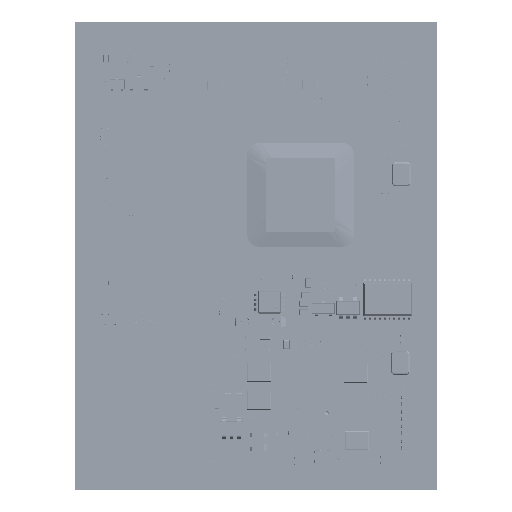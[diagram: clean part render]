
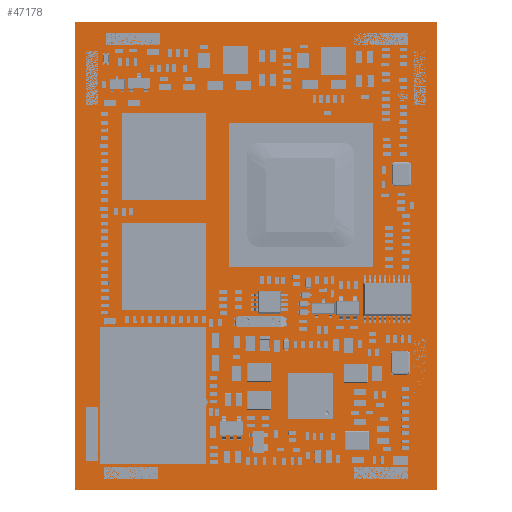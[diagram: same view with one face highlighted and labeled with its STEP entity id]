
A CAD part, top view. The second image highlights one B-rep face of the part: STEP entity #47178.
In plain terms, the highlighted planar face has unit normal (0, 0, 1).
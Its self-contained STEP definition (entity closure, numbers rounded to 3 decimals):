
#31039=FACE_OUTER_BOUND($,#35115,.F.);
#35115=EDGE_LOOP($,(#51330,#51331,#51332,#51333));
#39696=AXIS2_PLACEMENT_3D($,#109135,#93295,$);
#45693=PLANE($,#39696);
#47178=ADVANCED_FACE($,(#31039),#45693,.T.);
#51330=ORIENTED_EDGE($,*,*,#67999,.T.);
#51331=ORIENTED_EDGE($,*,*,#68000,.T.);
#51332=ORIENTED_EDGE($,*,*,#68001,.T.);
#51333=ORIENTED_EDGE($,*,*,#68002,.T.);
#67999=EDGE_CURVE($,#85144,#85145,#80744,.T.);
#68000=EDGE_CURVE($,#85145,#85146,#80745,.T.);
#68001=EDGE_CURVE($,#85146,#85147,#80746,.T.);
#68002=EDGE_CURVE($,#85147,#85144,#80747,.T.);
#76353=VECTOR($,#93367,47.702);
#76354=VECTOR($,#93368,61.702);
#76355=VECTOR($,#93369,47.702);
#76356=VECTOR($,#93370,61.702);
#80744=LINE($,#109134,#76353);
#80745=LINE($,#109135,#76354);
#80746=LINE($,#109136,#76355);
#80747=LINE($,#109137,#76356);
#85144=VERTEX_POINT($,#109134);
#85145=VERTEX_POINT($,#109135);
#85146=VERTEX_POINT($,#109136);
#85147=VERTEX_POINT($,#109137);
#93295=DIRECTION($,(0.,0.,1.));
#93367=DIRECTION($,(0.,1.,0.));
#93368=DIRECTION($,(1.,0.,0.));
#93369=DIRECTION($,(0.,-1.,0.));
#93370=DIRECTION($,(-1.,0.,0.));
#109134=CARTESIAN_POINT('',(-0.851,-0.851,0.001));
#109135=CARTESIAN_POINT('',(-0.851,46.851,0.001));
#109136=CARTESIAN_POINT('',(60.851,46.851,0.001));
#109137=CARTESIAN_POINT('',(60.851,-0.851,0.001));
